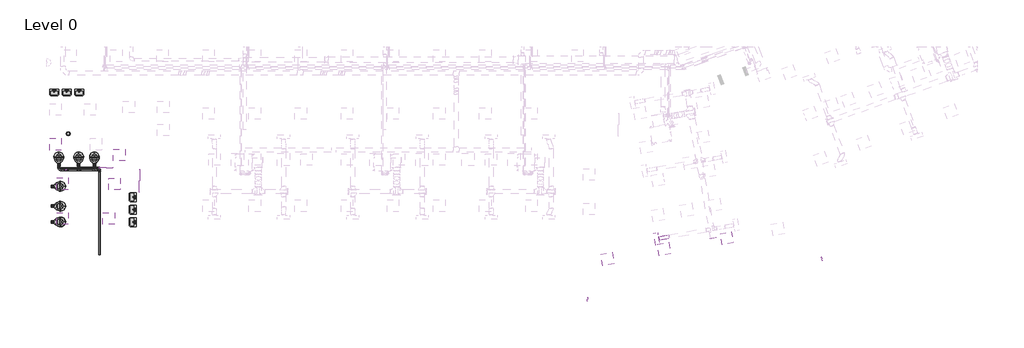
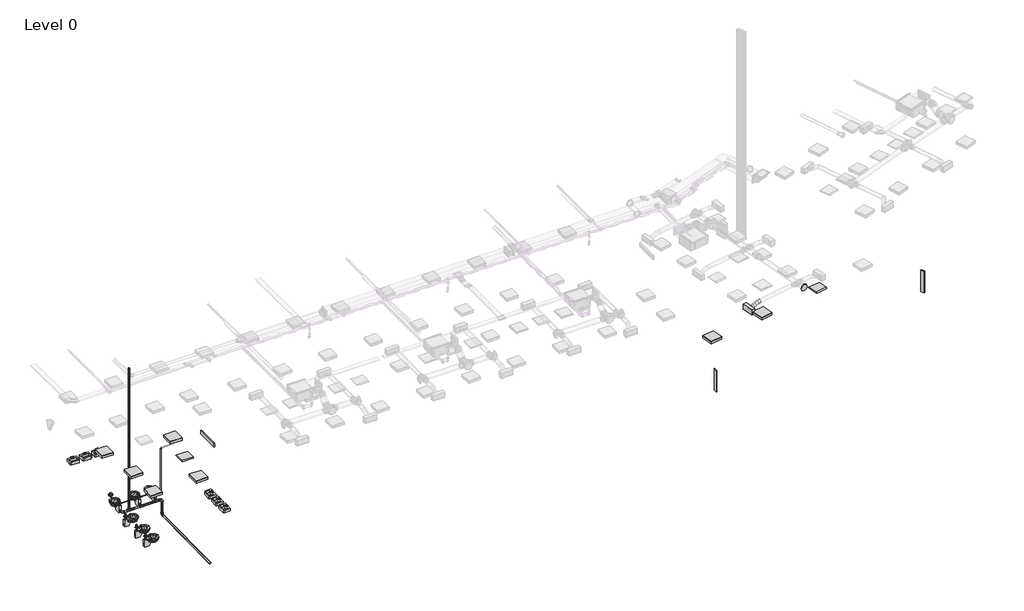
# One storey, part 1 of 34: 18 pipe segments, 16 pipe fittings, 13 flow terminals, 12 light fixtures, 1 air terminal, 1 duct fitting, 1 duct segment.
"""IFC4 building model written with IfcOpenShell, lengths in millimetres."""

from ifc_helpers import new_model, si_unit, point, frame, frame_2d, origin, place, context, project, spatial, circle_curve, ellipse_curve, trimmed, segment, composite_curve, outline, extrude, transform, mapped, element, save
from ifc_brep_helpers import plane_surface, cylinder_surface, advanced_brep
from components import supply_diffuser_with_plenum_linear_slot_hosted_2b730595, dw144_round_blank_end_standard_9aa061e7, flow_terminal_b70e5d94, flow_terminal_937b12d4, water_closet_flush_valve_wall_mounted_private_1_6_gpf_ada_c8064052, light_fixture_b730b5ca, light_fixture_64c2163c, troffer_light_2x2_parabolic_2_x2_2_lamp_120v_6a063ff3, bend_pvc_sch_40_dwv_standard_a4b99d37, bend_pvc_sch_40_dwv_standard_b43dd8eb, elbow_generic_standard_371413ad, elbow_generic_standard_c06ac706, plug_pvc_sch_40_dwv_standard_f522da5e, tee_generic_standard_e297dbca, tee_generic_standard_3d02b783, tee_sanitary_pvc_sch_40_dwv_standard_5c52869b, transition_generic_standard_7ca1ba8e, transition_generic_standard_d1cf43c0, transition_generic_standard_75be8432

model = new_model("IFC4")

# Units and contexts
model_context = context("Model", 3, world=origin())
ifc_project = project(units=[si_unit("LENGTHUNIT", "METRE", prefix="MILLI")], contexts=[model_context])

# Site, building, storey
site = spatial("IfcSite", under=ifc_project)
building = spatial("IfcBuilding", under=site)
storey = spatial("IfcBuildingStorey", under=building, Name="Level 0", Elevation=0.0)

# Air terminal
placement = place(None, origin())
supply_diffuser_with_plenum_linear_slot_hosted_shape = supply_diffuser_with_plenum_linear_slot_hosted_2b730595(model_context)
element("IfcAirTerminal", 1, ObjectType="Supply Diffuser with Plenum - Linear Slot - Hosted : 24\" x 8\"-200 In Inlet  4-Slot", at=placement, inside=storey, context=model_context, shape_type="MappedRepresentation", body=[
    mapped(supply_diffuser_with_plenum_linear_slot_hosted_shape, transform((32172.103094, -160.2535064, 2800.0), x_axis=(0.17364817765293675, -0.9848077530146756, 0.0), y_axis=(-0.9848077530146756, -0.17364817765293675, 0.0), z_axis=(0.0, 0.0, -1.0))),
])

# Duct fitting
dw144_round_blank_end_standard_shape = dw144_round_blank_end_standard_9aa061e7(model_context)
element("IfcDuctFitting", 2, ObjectType="DW144 Round Blank End : Standard", at=placement, inside=storey, context=model_context, shape_type="MappedRepresentation", body=[
    mapped(dw144_round_blank_end_standard_shape, transform((35110.8297064, -106.9527609, 3072.2088531), x_axis=(0.17364817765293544, -0.9848077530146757, 0.0), y_axis=(0.0, 0.0, -1.0), z_axis=(0.9848077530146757, 0.17364817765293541, 0.0))),
])

# Duct segment
element("IfcDuctSegment", 3, ObjectType="Flex - Round", at=placement, inside=storey, context=model_context, shape_type="AdvancedBrep", body=[
    advanced_brep(
    [(32832.8785941, -145.2836188, 3072.2088531), (32815.5137763, -46.8028435, 2972.2088531), (32798.1489586, 51.6779318, 3072.2088531), (32815.5137763, -46.8028435, 3172.2088531), (32819.3577841, -147.6677024, 3072.2088531), (32809.5599858, -47.8526574, 2972.2088531), (32784.6281486, 49.2938482, 3072.2088531), (32794.4259469, -50.5211968, 3172.2088531), (32314.5384964, -236.6809632, 2954.4), (32297.1736787, -138.2001879, 3054.4), (32279.8088609, -39.7194126, 2954.4), (32297.1736787, -138.2001879, 2854.4), (32702.0911799, -168.3449686, 3053.8012198), (32706.9780341, -65.9406232, 2956.1063066), (32667.3615444, 28.616582, 3053.8012198), (32662.4746903, -73.7877634, 3151.4961331), (32573.7085453, -190.982291, 3013.3044266), (32585.5591897, -87.3500414, 2917.8061591), (32538.9789097, 5.9792596, 3013.3044266), (32527.1282653, -97.6529899, 3108.802694), (32445.3259106, -213.6196133, 2972.8076333), (32450.2127647, -111.2152679, 2875.1127201), (32410.596275, -16.6580627, 2972.8076333), (32405.7094209, -119.0624081, 3070.5025465), (32328.0593064, -234.2968796, 2954.4), (32318.2615081, -134.4818346, 2854.4), (32293.3296708, -37.335329, 2954.4), (32303.1274691, -137.150374, 3054.4)],
    [
        (0, 1, circle_curve(frame((32815.5137763, -46.8028435, 3072.2088531), z_axis=(0.9848077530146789, 0.17364817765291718, 0.0), x_axis=(0.17364817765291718, -0.9848077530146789, 0.0)), 100.0)),
        (1, 2, circle_curve(frame((32815.5137763, -46.8028435, 3072.2088531), z_axis=(0.9848077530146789, 0.17364817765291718, 0.0), x_axis=(0.17364817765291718, -0.9848077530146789, 0.0)), 100.0)),
        (2, 3, circle_curve(frame((32815.5137763, -46.8028435, 3072.2088531), z_axis=(0.9848077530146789, 0.17364817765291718, 0.0), x_axis=(0.17364817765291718, -0.9848077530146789, 0.0)), 100.0)),
        (3, 0, circle_curve(frame((32815.5137763, -46.8028435, 3072.2088531), z_axis=(0.9848077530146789, 0.17364817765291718, 0.0), x_axis=(0.17364817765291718, -0.9848077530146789, 0.0)), 100.0)),
        (0, 4),
        (4, 5, ellipse_curve(frame((32801.9929664, -49.1869271, 3072.2088531), z_axis=(0.9819134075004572, 0.1731378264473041, 0.07661170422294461), x_axis=(0.07544780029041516, 0.013303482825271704, -0.9970610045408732)), 100.2947659, 100.0)),
        (5, 1),
        (5, 6, ellipse_curve(frame((32801.9929664, -49.1869271, 3072.2088531), z_axis=(0.9819134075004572, 0.1731378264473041, 0.07661170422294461), x_axis=(0.07544780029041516, 0.013303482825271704, -0.9970610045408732)), 100.2947659, 100.0)),
        (6, 2),
        (6, 7, ellipse_curve(frame((32801.9929664, -49.1869271, 3072.2088531), z_axis=(0.9819134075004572, 0.1731378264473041, 0.07661170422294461), x_axis=(0.07544780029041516, 0.013303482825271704, -0.9970610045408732)), 100.2947659, 100.0)),
        (7, 3),
        (7, 4, ellipse_curve(frame((32801.9929664, -49.1869271, 3072.2088531), z_axis=(0.9819134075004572, 0.1731378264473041, 0.07661170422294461), x_axis=(0.07544780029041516, 0.013303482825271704, -0.9970610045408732)), 100.2947659, 100.0)),
        (8, 9, circle_curve(frame((32297.1736787, -138.2001879, 2954.4), z_axis=(-0.9848077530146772, -0.17364817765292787, 0.0), x_axis=(0.17364817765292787, -0.9848077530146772, 0.0)), 100.0)),
        (9, 10, circle_curve(frame((32297.1736787, -138.2001879, 2954.4), z_axis=(-0.9848077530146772, -0.17364817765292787, 0.0), x_axis=(0.17364817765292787, -0.9848077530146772, 0.0)), 100.0)),
        (10, 11, circle_curve(frame((32297.1736787, -138.2001879, 2954.4), z_axis=(-0.9848077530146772, -0.17364817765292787, 0.0), x_axis=(0.17364817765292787, -0.9848077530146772, 0.0)), 100.0)),
        (11, 8, circle_curve(frame((32297.1736787, -138.2001879, 2954.4), z_axis=(-0.9848077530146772, -0.17364817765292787, 0.0), x_axis=(0.17364817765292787, -0.9848077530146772, 0.0)), 100.0)),
        (4, 12),
        (12, 13, ellipse_curve(frame((32684.7263622, -69.8641933, 3053.8012198), z_axis=(0.9594803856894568, 0.16918227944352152, 0.22533252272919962), x_axis=(0.22190921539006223, 0.03912858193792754, -0.9742819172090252)), 100.2737622, 100.0)),
        (13, 5),
        (13, 14, ellipse_curve(frame((32684.7263622, -69.8641933, 3053.8012198), z_axis=(0.9594803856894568, 0.16918227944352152, 0.22533252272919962), x_axis=(0.22190921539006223, 0.03912858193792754, -0.9742819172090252)), 100.2737622, 100.0)),
        (14, 6),
        (14, 15, ellipse_curve(frame((32684.7263622, -69.8641933, 3053.8012198), z_axis=(0.9594803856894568, 0.16918227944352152, 0.22533252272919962), x_axis=(0.22190921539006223, 0.03912858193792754, -0.9742819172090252)), 100.2737622, 100.0)),
        (15, 7),
        (15, 12, ellipse_curve(frame((32684.7263622, -69.8641933, 3053.8012198), z_axis=(0.9594803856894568, 0.16918227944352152, 0.22533252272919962), x_axis=(0.22190921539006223, 0.03912858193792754, -0.9742819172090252)), 100.2737622, 100.0)),
        (12, 16),
        (16, 17, circle_curve(frame((32556.3437275, -92.5015157, 3013.3044266), z_axis=(0.9404743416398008, 0.16583100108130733, 0.29666157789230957), x_axis=(0.17364817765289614, -0.9848077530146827, 0.0)), 100.0)),
        (17, 13),
        (17, 18, circle_curve(frame((32556.3437275, -92.5015157, 3013.3044266), z_axis=(0.9404743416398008, 0.16583100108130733, 0.29666157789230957), x_axis=(0.17364817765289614, -0.9848077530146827, 0.0)), 100.0)),
        (18, 14),
        (18, 19, circle_curve(frame((32556.3437275, -92.5015157, 3013.3044266), z_axis=(0.9404743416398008, 0.16583100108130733, 0.29666157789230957), x_axis=(0.17364817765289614, -0.9848077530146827, 0.0)), 100.0)),
        (19, 15),
        (19, 16, circle_curve(frame((32556.3437275, -92.5015157, 3013.3044266), z_axis=(0.9404743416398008, 0.16583100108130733, 0.29666157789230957), x_axis=(0.17364817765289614, -0.9848077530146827, 0.0)), 100.0)),
        (16, 20),
        (20, 21, ellipse_curve(frame((32427.9610928, -115.138838, 2972.8076333), z_axis=(0.9594803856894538, 0.16918227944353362, 0.22533252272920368), x_axis=(-0.22190921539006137, -0.03912858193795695, 0.9742819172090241)), 100.2737622, 100.0)),
        (21, 17),
        (21, 22, ellipse_curve(frame((32427.9610928, -115.138838, 2972.8076333), z_axis=(0.9594803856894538, 0.16918227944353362, 0.22533252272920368), x_axis=(-0.22190921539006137, -0.03912858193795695, 0.9742819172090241)), 100.2737622, 100.0)),
        (22, 18),
        (22, 23, ellipse_curve(frame((32427.9610928, -115.138838, 2972.8076333), z_axis=(0.9594803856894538, 0.16918227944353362, 0.22533252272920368), x_axis=(-0.22190921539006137, -0.03912858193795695, 0.9742819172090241)), 100.2737622, 100.0)),
        (23, 19),
        (23, 20, ellipse_curve(frame((32427.9610928, -115.138838, 2972.8076333), z_axis=(0.9594803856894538, 0.16918227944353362, 0.22533252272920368), x_axis=(-0.22190921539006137, -0.03912858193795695, 0.9742819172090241)), 100.2737622, 100.0)),
        (20, 24),
        (24, 25, ellipse_curve(frame((32310.6944886, -135.8161043, 2954.4), z_axis=(0.981913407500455, 0.17313782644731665, 0.07661170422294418), x_axis=(-0.07544780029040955, -0.013303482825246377, 0.9970610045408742)), 100.2947659, 100.0)),
        (25, 21),
        (25, 26, ellipse_curve(frame((32310.6944886, -135.8161043, 2954.4), z_axis=(0.981913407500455, 0.17313782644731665, 0.07661170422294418), x_axis=(-0.07544780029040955, -0.013303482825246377, 0.9970610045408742)), 100.2947659, 100.0)),
        (26, 22),
        (26, 27, ellipse_curve(frame((32310.6944886, -135.8161043, 2954.4), z_axis=(0.981913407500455, 0.17313782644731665, 0.07661170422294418), x_axis=(-0.07544780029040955, -0.013303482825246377, 0.9970610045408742)), 100.2947659, 100.0)),
        (27, 23),
        (27, 24, ellipse_curve(frame((32310.6944886, -135.8161043, 2954.4), z_axis=(0.981913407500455, 0.17313782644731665, 0.07661170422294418), x_axis=(-0.07544780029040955, -0.013303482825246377, 0.9970610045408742)), 100.2947659, 100.0)),
        (24, 8),
        (11, 25),
        (10, 26),
        (9, 27),
    ],
    [
        plane_surface(frame((32815.5137763, -46.8028435, 2972.2088531), z_axis=(0.9848077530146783, 0.1736481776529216, 0.0), x_axis=(0.1736481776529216, -0.9848077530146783, 0.0))),
        cylinder_surface(frame((32815.5137763, -46.8028435, 3072.2088531), z_axis=(0.9848077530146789, 0.17364817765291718, 0.0), x_axis=(0.17364817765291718, -0.9848077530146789, 0.0)), 100.0),
        plane_surface(frame((32297.1736787, -138.2001879, 2854.4), z_axis=(-0.9848077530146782, -0.17364817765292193, 0.0), x_axis=(0.17364817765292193, -0.9848077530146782, 0.0))),
        cylinder_surface(frame((32801.9929664, -49.1869271, 3072.2088531), z_axis=(0.9732473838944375, 0.17160977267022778, 0.1527730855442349), x_axis=(0.17364817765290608, -0.9848077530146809, 0.0)), 100.0),
        cylinder_surface(frame((32684.7263622, -69.8641933, 3053.8012198), z_axis=(0.9404743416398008, 0.16583100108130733, 0.29666157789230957), x_axis=(0.17364817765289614, -0.9848077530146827, 0.0)), 100.0),
        cylinder_surface(frame((32556.3437275, -92.5015157, 3013.3044266), z_axis=(0.9404743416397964, 0.165831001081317, 0.29666157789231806), x_axis=(0.17364817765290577, -0.984807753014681, 0.0)), 100.0),
        cylinder_surface(frame((32427.9610928, -115.138838, 2972.8076333), z_axis=(0.9732473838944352, 0.1716097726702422, 0.15277308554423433), x_axis=(0.17364817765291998, -0.9848077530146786, 0.0)), 100.0),
        cylinder_surface(frame((32310.6944886, -135.8161043, 2954.4), z_axis=(0.9848077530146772, 0.17364817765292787, 0.0), x_axis=(0.17364817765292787, -0.9848077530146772, 0.0)), 100.0),
    ],
    [
        (0, [[1, 2, 3, 4]]),
        (1, [[-1, 5, 6, 7]]),
        (1, [[-2, -7, 8, 9]]),
        (1, [[-3, -9, 10, 11]]),
        (1, [[-4, -11, 12, -5]]),
        (2, [[13, 14, 15, 16]]),
        (3, [[-6, 17, 18, 19]]),
        (3, [[-8, -19, 20, 21]]),
        (3, [[-10, -21, 22, 23]]),
        (3, [[-12, -23, 24, -17]]),
        (4, [[-18, 25, 26, 27]]),
        (4, [[-20, -27, 28, 29]]),
        (4, [[-22, -29, 30, 31]]),
        (4, [[-24, -31, 32, -25]]),
        (5, [[-26, 33, 34, 35]]),
        (5, [[-28, -35, 36, 37]]),
        (5, [[-30, -37, 38, 39]]),
        (5, [[-32, -39, 40, -33]]),
        (6, [[-34, 41, 42, 43]]),
        (6, [[-36, -43, 44, 45]]),
        (6, [[-38, -45, 46, 47]]),
        (6, [[-40, -47, 48, -41]]),
        (7, [[-42, 49, -16, 50]]),
        (7, [[-44, -50, -15, 51]]),
        (7, [[-46, -51, -14, 52]]),
        (7, [[-48, -52, -13, -49]]),
    ],
),
])

# Flow terminals
flow_terminal_shape = flow_terminal_b70e5d94(model_context)
element("IfcFlowTerminal", 4, ObjectType="Floor Drain - Round : 5\" Strainer - 2\" Drain", at=placement, inside=storey, context=model_context, shape_type="MappedRepresentation", body=[
    mapped(flow_terminal_shape, transform((1559.8000023, 5316.2000005, 0.0), x_axis=(1.0, 0.0, 0.0), y_axis=(0.0, 1.0, 0.0), z_axis=(0.0, 0.0, 1.0))),
])
flow_terminal_2_shape = flow_terminal_937b12d4(model_context)
element("IfcFlowTerminal", 5, ObjectType="Lavatory - Wall Mounted : 19\"x14\" - Public", at=placement, inside=storey, context=model_context, shape_type="MappedRepresentation", body=[
    mapped(flow_terminal_2_shape, transform((2132.9119024, 7638.2000005, 863.6), x_axis=(1.0, 0.0, 0.0), y_axis=(0.0, 0.0, 1.0), z_axis=(0.0, -1.0, 0.0))),
])
element("IfcFlowTerminal", 6, ObjectType="Lavatory - Wall Mounted : 19\"x14\" - Public", at=placement, inside=storey, context=model_context, shape_type="MappedRepresentation", body=[
    mapped(flow_terminal_2_shape, transform((1482.8708034, 7638.2000005, 863.6), x_axis=(1.0, 0.0, 0.0), y_axis=(0.0, 0.0, 1.0), z_axis=(0.0, -1.0, 0.0))),
])
element("IfcFlowTerminal", 7, ObjectType="Lavatory - Wall Mounted : 19\"x14\" - Public", at=placement, inside=storey, context=model_context, shape_type="MappedRepresentation", body=[
    mapped(flow_terminal_2_shape, transform((832.9119024, 7638.2000005, 863.6), x_axis=(1.0, 0.0, 0.0), y_axis=(0.0, 0.0, 1.0), z_axis=(0.0, -1.0, 0.0))),
])
element("IfcFlowTerminal", 8, ObjectType="Lavatory - Wall Mounted : 19\"x14\" - Public", at=placement, inside=storey, context=model_context, shape_type="MappedRepresentation", body=[
    mapped(flow_terminal_2_shape, transform((5095.2000024, 2011.8793485, 863.6), x_axis=(2.1361801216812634e-11, -1.0, 0.0), y_axis=(0.0, 0.0, 1.0), z_axis=(-1.0, -2.1361801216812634e-11, 0.0))),
])
element("IfcFlowTerminal", 9, ObjectType="Lavatory - Wall Mounted : 19\"x14\" - Public", at=placement, inside=storey, context=model_context, shape_type="MappedRepresentation", body=[
    mapped(flow_terminal_2_shape, transform((5095.2000025, 1361.8793485, 863.6), x_axis=(2.1361801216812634e-11, -1.0, 0.0), y_axis=(0.0, 0.0, 1.0), z_axis=(-1.0, -2.1361801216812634e-11, 0.0))),
])
element("IfcFlowTerminal", 10, ObjectType="Lavatory - Wall Mounted : 19\"x14\" - Public", at=placement, inside=storey, context=model_context, shape_type="MappedRepresentation", body=[
    mapped(flow_terminal_2_shape, transform((5095.2000025, 711.8382495, 863.6), x_axis=(2.1361801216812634e-11, -1.0, 0.0), y_axis=(0.0, 0.0, 1.0), z_axis=(-1.0, -2.1361801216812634e-11, 0.0))),
])
water_closet_flush_valve_wall_mounted_private_1_6_gpf_ada_shape = water_closet_flush_valve_wall_mounted_private_1_6_gpf_ada_c8064052(model_context)
element("IfcFlowTerminal", 11, ObjectType="Water Closet - Flush Valve - Wall Mounted : Private - 1.6 gpf", at=placement, inside=storey, context=model_context, shape_type="MappedRepresentation", body=[
    mapped(water_closet_flush_valve_wall_mounted_private_1_6_gpf_ada_shape, transform((2922.5000007, 3626.5000005, 431.8), x_axis=(-1.0, 2.544029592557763e-11, 0.0), y_axis=(0.0, 0.0, 1.0), z_axis=(2.544029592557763e-11, 1.0, 0.0))),
])
element("IfcFlowTerminal", 12, ObjectType="Water Closet - Flush Valve - Wall Mounted : Private - 1.6 gpf", at=placement, inside=storey, context=model_context, shape_type="MappedRepresentation", body=[
    mapped(water_closet_flush_valve_wall_mounted_private_1_6_gpf_ada_shape, transform((2102.5000007, 3626.5000005, 431.8), x_axis=(-1.0, 2.544029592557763e-11, 0.0), y_axis=(0.0, 0.0, 1.0), z_axis=(2.544029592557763e-11, 1.0, 0.0))),
])
element("IfcFlowTerminal", 13, ObjectType="Water Closet - Flush Valve - Wall Mounted : Private - 1.6 gpf", at=placement, inside=storey, context=model_context, shape_type="MappedRepresentation", body=[
    mapped(water_closet_flush_valve_wall_mounted_private_1_6_gpf_ada_shape, transform((683.0, 1543.0000006, 431.8), x_axis=(2.5445388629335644e-11, 1.0, 0.0), y_axis=(0.0, 0.0, 1.0), z_axis=(1.0, -2.5445388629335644e-11, 0.0))),
])
element("IfcFlowTerminal", 14, ObjectType="Water Closet - Flush Valve - Wall Mounted : Private - 1.6 gpf", at=placement, inside=storey, context=model_context, shape_type="MappedRepresentation", body=[
    mapped(water_closet_flush_valve_wall_mounted_private_1_6_gpf_ada_shape, transform((683.0, 723.0000006, 431.8), x_axis=(2.5445388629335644e-11, 1.0, 0.0), y_axis=(0.0, 0.0, 1.0), z_axis=(1.0, -2.5445388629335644e-11, 0.0))),
])
element("IfcFlowTerminal", 15, ObjectType="Water Closet - Flush Valve - Wall Mounted : Private - 1.6 gpf ADA", at=placement, inside=storey, context=model_context, shape_type="MappedRepresentation", body=[
    mapped(water_closet_flush_valve_wall_mounted_private_1_6_gpf_ada_shape, transform((1070.5000006, 3626.5000006, 431.8), x_axis=(-1.0, 2.544029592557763e-11, 0.0), y_axis=(0.0, 0.0, 1.0), z_axis=(2.544029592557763e-11, 1.0, 0.0))),
])
element("IfcFlowTerminal", 16, ObjectType="Water Closet - Flush Valve - Wall Mounted : Private - 1.6 gpf ADA", at=placement, inside=storey, context=model_context, shape_type="MappedRepresentation", body=[
    mapped(water_closet_flush_valve_wall_mounted_private_1_6_gpf_ada_shape, transform((683.0, 2575.0000006, 431.8), x_axis=(2.5445388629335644e-11, 1.0, 0.0), y_axis=(0.0, 0.0, 1.0), z_axis=(1.0, -2.5445388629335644e-11, 0.0))),
])

# Light fixtures
light_fixture_shape = light_fixture_b730b5ca(model_context)
element("IfcLightFixture", 17, ObjectType="ELEKTRA EM Recessed Lighting Fixture : 24\" x 24\" - 230", at=placement, inside=storey, context=model_context, shape_type="MappedRepresentation", body=[
    mapped(light_fixture_shape, transform((35578.2520389, -473.5414979, 2800.0), x_axis=(0.9848077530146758, 0.17364817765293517, 0.0), y_axis=(0.17364817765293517, -0.9848077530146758, 0.0), z_axis=(0.0, 0.0, -1.0))),
])
element("IfcLightFixture", 18, ObjectType="ELEKTRA EM Recessed Lighting Fixture : 24\" x 24\" - 230", at=placement, inside=storey, context=model_context, shape_type="MappedRepresentation", body=[
    mapped(light_fixture_shape, transform((3665.1000015, 2399.5000004, 2800.0), x_axis=(1.0, 0.0, 0.0), y_axis=(0.0, -1.0, 0.0), z_axis=(0.0, 0.0, -1.0))),
])
light_fixture_2_shape = light_fixture_64c2163c(model_context)
element("IfcLightFixture", 19, ObjectType="Plain Surface Lighting Fixture : 8\" x 48\" - 230", at=placement, inside=storey, context=model_context, shape_type="MappedRepresentation", body=[
    mapped(light_fixture_2_shape, transform((28564.8766926, -2669.6946701, 2438.8521354), x_axis=(0.0, 0.0, 1.0), y_axis=(-5.6002563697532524e-11, -1.0, 0.0), z_axis=(1.0, -5.6002563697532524e-11, 0.0))),
])
element("IfcLightFixture", 20, ObjectType="Plain Surface Lighting Fixture : 8\" x 48\" - 230", at=placement, inside=storey, context=model_context, shape_type="MappedRepresentation", body=[
    mapped(light_fixture_2_shape, transform((41007.2655529, -1794.4204217, 2438.8521354), x_axis=(0.0, 0.0, 1.0), y_axis=(-0.34202014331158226, 0.9396926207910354, 0.0), z_axis=(-0.9396926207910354, -0.34202014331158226, 0.0))),
])
element("IfcLightFixture", 21, ObjectType="Plain Surface Lighting Fixture : 8\" x 48\" - 230", at=placement, inside=storey, context=model_context, shape_type="MappedRepresentation", body=[
    mapped(light_fixture_2_shape, transform((5259.2000025, 3193.4813411, 2611.4786995), x_axis=(4.169267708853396e-11, 1.0, 0.0), y_axis=(0.0, 0.0, 1.0), z_axis=(1.0, -4.169267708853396e-11, 0.0))),
])
troffer_light_2x2_parabolic_2_x2_2_lamp_120v_shape = troffer_light_2x2_parabolic_2_x2_2_lamp_120v_6a063ff3(model_context)
element("IfcLightFixture", 22, ObjectType="Troffer Light - 2x2 Parabolic : 2'x2'(2 Lamp) - 120V", at=placement, inside=storey, context=model_context, shape_type="MappedRepresentation", body=[
    mapped(troffer_light_2x2_parabolic_2_x2_2_lamp_120v_shape, transform((29669.4055208, -1515.4305638, 2800.0), x_axis=(0.9848077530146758, 0.17364817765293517, 0.0), y_axis=(0.17364817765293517, -0.9848077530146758, 0.0), z_axis=(0.0, 0.0, -1.0))),
])
element("IfcLightFixture", 23, ObjectType="Troffer Light - 2x2 Parabolic : 2'x2'(2 Lamp) - 120V", at=placement, inside=storey, context=model_context, shape_type="MappedRepresentation", body=[
    mapped(troffer_light_2x2_parabolic_2_x2_2_lamp_120v_shape, transform((32623.8287798, -994.4860308, 2800.0), x_axis=(0.9848077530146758, 0.17364817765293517, 0.0), y_axis=(0.17364817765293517, -0.9848077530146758, 0.0), z_axis=(0.0, 0.0, -1.0))),
])
element("IfcLightFixture", 24, ObjectType="Troffer Light - 2x2 Parabolic : 2'x2'(2 Lamp) - 120V", at=placement, inside=storey, context=model_context, shape_type="MappedRepresentation", body=[
    mapped(troffer_light_2x2_parabolic_2_x2_2_lamp_120v_shape, transform((899.8500021, 4463.6000005, 2800.0), x_axis=(1.0, 0.0, 0.0), y_axis=(0.0, -1.0, 0.0), z_axis=(0.0, 0.0, -1.0))),
])
element("IfcLightFixture", 25, ObjectType="Troffer Light - 2x2 Parabolic : 2'x2'(2 Lamp) - 120V", at=placement, inside=storey, context=model_context, shape_type="MappedRepresentation", body=[
    mapped(troffer_light_2x2_parabolic_2_x2_2_lamp_120v_shape, transform((1265.1000015, 599.5000004, 2800.0), x_axis=(1.0, 0.0, 0.0), y_axis=(0.0, -1.0, 0.0), z_axis=(0.0, 0.0, -1.0))),
])
element("IfcLightFixture", 26, ObjectType="Troffer Light - 2x2 Parabolic : 2'x2'(2 Lamp) - 120V", at=placement, inside=storey, context=model_context, shape_type="MappedRepresentation", body=[
    mapped(troffer_light_2x2_parabolic_2_x2_2_lamp_120v_shape, transform((3665.1000015, 599.5000004, 2800.0), x_axis=(1.0, 0.0, 0.0), y_axis=(0.0, -1.0, 0.0), z_axis=(0.0, 0.0, -1.0))),
])
element("IfcLightFixture", 27, ObjectType="Troffer Light - 2x2 Parabolic : 2'x2'(2 Lamp) - 120V", at=placement, inside=storey, context=model_context, shape_type="MappedRepresentation", body=[
    mapped(troffer_light_2x2_parabolic_2_x2_2_lamp_120v_shape, transform((1265.1000015, 2399.5000004, 2800.0), x_axis=(1.0, 0.0, 0.0), y_axis=(0.0, -1.0, 0.0), z_axis=(0.0, 0.0, -1.0))),
])
element("IfcLightFixture", 28, ObjectType="Troffer Light - 2x2 Parabolic : 2'x2'(2 Lamp) - 120V", at=placement, inside=storey, context=model_context, shape_type="MappedRepresentation", body=[
    mapped(troffer_light_2x2_parabolic_2_x2_2_lamp_120v_shape, transform((4212.9500027, 3899.5000003, 2800.0), x_axis=(1.0, 0.0, 0.0), y_axis=(0.0, -1.0, 0.0), z_axis=(0.0, 0.0, -1.0))),
])

# Pipe fittings
bend_pvc_sch_40_dwv_standard_shape = bend_pvc_sch_40_dwv_standard_a4b99d37(model_context)
element("IfcPipeFitting", 29, ObjectType="Bend - PVC - Sch 40 - DWV : Standard", at=placement, inside=storey, context=model_context, shape_type="MappedRepresentation", body=[
    mapped(bend_pvc_sch_40_dwv_standard_shape, transform((1070.5000006, 3437.3672386, 234.7324174), x_axis=(0.0, -1.0, 0.0), y_axis=(1.0, 0.0, 0.0), z_axis=(0.0, 0.0, 1.0))),
])
element("IfcPipeFitting", 30, ObjectType="Bend - PVC - Sch 40 - DWV : Standard", at=placement, inside=storey, context=model_context, shape_type="MappedRepresentation", body=[
    mapped(bend_pvc_sch_40_dwv_standard_shape, transform((3190.8002007, 3437.3672386, 234.7324174), x_axis=(1.0, 0.0, 0.0), y_axis=(0.0, 0.0, -1.0), z_axis=(0.0, 1.0, 0.0))),
])
bend_pvc_sch_40_dwv_standard_2_shape = bend_pvc_sch_40_dwv_standard_b43dd8eb(model_context)
element("IfcPipeFitting", 31, ObjectType="Bend - PVC - Sch 40 - DWV : Standard", at=placement, inside=storey, context=model_context, shape_type="MappedRepresentation", body=[
    mapped(bend_pvc_sch_40_dwv_standard_2_shape, transform((3190.8002007, 3437.3672386, -609.6), x_axis=(0.0, 0.0, -1.0), y_axis=(0.0, -1.0, 0.0), z_axis=(-1.0, 0.0, 0.0))),
])
elbow_generic_standard_shape = elbow_generic_standard_371413ad(model_context)
element("IfcPipeFitting", 32, ObjectType="Elbow - Generic : Standard", at=placement, inside=storey, context=model_context, shape_type="MappedRepresentation", body=[
    mapped(elbow_generic_standard_shape, transform((3190.7875007, 3537.6000005, 690.0437815), x_axis=(1.0, 0.0, 0.0), y_axis=(0.0, 0.0, 1.0), z_axis=(0.0, -1.0, 0.0))),
])
element("IfcPipeFitting", 33, ObjectType="Elbow - Generic : Standard", at=placement, inside=storey, context=model_context, shape_type="MappedRepresentation", body=[
    mapped(elbow_generic_standard_shape, transform((3190.7875007, 3537.6000005, 3048.0), x_axis=(0.0, 0.0, 1.0), y_axis=(1.0, 0.0, 0.0), z_axis=(0.0, 1.0, 0.0))),
])
elbow_generic_standard_2_shape = elbow_generic_standard_c06ac706(model_context)
element("IfcPipeFitting", 34, ObjectType="Elbow - Generic : Standard", at=placement, inside=storey, context=model_context, shape_type="MappedRepresentation", body=[
    mapped(elbow_generic_standard_2_shape, transform((1070.5000006, 3537.6000005, 690.0437815), x_axis=(0.0, -1.0, 0.0), y_axis=(1.0, 0.0, 0.0), z_axis=(0.0, 0.0, 1.0))),
])
plug_pvc_sch_40_dwv_standard_shape = plug_pvc_sch_40_dwv_standard_f522da5e(model_context)
element("IfcPipeFitting", 35, ObjectType="Plug - PVC - Sch 40 - DWV : Standard", at=placement, inside=storey, context=model_context, shape_type="MappedRepresentation", body=[
    mapped(plug_pvc_sch_40_dwv_standard_shape, transform((1448.1068043, 3437.3672386, 8179.8), x_axis=(0.0, 0.0, 1.0), y_axis=(0.0, -1.0, 0.0), z_axis=(1.0, 0.0, 0.0))),
])
tee_generic_standard_shape = tee_generic_standard_e297dbca(model_context)
element("IfcPipeFitting", 36, ObjectType="Tee - Generic : Standard", at=placement, inside=storey, context=model_context, shape_type="MappedRepresentation", body=[
    mapped(tee_generic_standard_shape, transform((2102.5000007, 3537.6000005, 690.0437815), x_axis=(-1.0, 0.0, 0.0), y_axis=(0.0, -1.0, 0.0), z_axis=(0.0, 0.0, 1.0))),
])
tee_generic_standard_2_shape = tee_generic_standard_3d02b783(model_context)
element("IfcPipeFitting", 37, ObjectType="Tee - Generic : Standard", at=placement, inside=storey, context=model_context, shape_type="MappedRepresentation", body=[
    mapped(tee_generic_standard_2_shape, transform((2922.5000007, 3537.6000005, 690.0437815), x_axis=(1.0, 0.0, 0.0), y_axis=(0.0, -1.0, 0.0), z_axis=(0.0, 0.0, -1.0))),
])
tee_sanitary_pvc_sch_40_dwv_standard_shape = tee_sanitary_pvc_sch_40_dwv_standard_5c52869b(model_context)
element("IfcPipeFitting", 38, ObjectType="Tee Sanitary - PVC - Sch 40 - DWV : Standard", at=placement, inside=storey, context=model_context, shape_type="MappedRepresentation", body=[
    mapped(tee_sanitary_pvc_sch_40_dwv_standard_shape, transform((2102.5000007, 3437.3672386, 234.7324174), x_axis=(-1.0, 0.0, 0.0), y_axis=(0.0, -1.0, 0.0), z_axis=(0.0, 0.0, 1.0))),
])
element("IfcPipeFitting", 39, ObjectType="Tee Sanitary - PVC - Sch 40 - DWV : Standard", at=placement, inside=storey, context=model_context, shape_type="MappedRepresentation", body=[
    mapped(tee_sanitary_pvc_sch_40_dwv_standard_shape, transform((2922.5000007, 3437.3672386, 234.7324174), x_axis=(-1.0, 0.0, 0.0), y_axis=(0.0, -1.0, 0.0), z_axis=(0.0, 0.0, 1.0))),
])
element("IfcPipeFitting", 40, ObjectType="Tee Sanitary - PVC - Sch 40 - DWV : Standard", at=placement, inside=storey, context=model_context, shape_type="MappedRepresentation", body=[
    mapped(tee_sanitary_pvc_sch_40_dwv_standard_shape, transform((1448.1068043, 3437.3672386, 234.7324174), x_axis=(-1.0, 0.0, 0.0), y_axis=(0.0, 0.0, -1.0), z_axis=(0.0, -1.0, 0.0))),
])
transition_generic_standard_shape = transition_generic_standard_7ca1ba8e(model_context)
element("IfcPipeFitting", 41, ObjectType="Transition - Generic : Standard", at=placement, inside=storey, context=model_context, shape_type="MappedRepresentation", body=[
    mapped(transition_generic_standard_shape, transform((2072.3375007, 3537.6000005, 690.0437815), x_axis=(-1.0, 0.0, 0.0), y_axis=(0.0, -1.0, 0.0), z_axis=(0.0, 0.0, 1.0))),
])
element("IfcPipeFitting", 42, ObjectType="Transition - Generic : Standard", at=placement, inside=storey, context=model_context, shape_type="MappedRepresentation", body=[
    mapped(transition_generic_standard_shape, transform((2102.5000007, 3567.7625005, 690.0437815), x_axis=(0.0, 1.0, 0.0), y_axis=(-1.0, 0.0, 0.0), z_axis=(0.0, 0.0, 1.0))),
])
transition_generic_standard_2_shape = transition_generic_standard_d1cf43c0(model_context)
element("IfcPipeFitting", 43, ObjectType="Transition - Generic : Standard", at=placement, inside=storey, context=model_context, shape_type="MappedRepresentation", body=[
    mapped(transition_generic_standard_2_shape, transform((2889.1625007, 3537.6000005, 690.0437815), x_axis=(-1.0, 0.0, 0.0), y_axis=(0.0, -1.0, 0.0), z_axis=(0.0, 0.0, 1.0))),
])
transition_generic_standard_3_shape = transition_generic_standard_75be8432(model_context)
element("IfcPipeFitting", 44, ObjectType="Transition - Generic : Standard", at=placement, inside=storey, context=model_context, shape_type="MappedRepresentation", body=[
    mapped(transition_generic_standard_3_shape, transform((2922.5000007, 3570.9375005, 690.0437815), x_axis=(0.0, 1.0, 0.0), y_axis=(-1.0, 0.0, 0.0), z_axis=(0.0, 0.0, 1.0))),
])

# Pipe segments
element("IfcPipeSegment", 45, ObjectType="PVC - DWV", at=placement, inside=storey, context=model_context, shape_type="SweptSolid", body=[
    extrude(outline(composite_curve([segment(trimmed(circle_curve(frame_2d((234.7324174, 1070.5000006)), 44.45), [point((234.7324174, 1026.0500006))], [point((190.2824174, 1070.5000006))], False, "CARTESIAN"), True, "CONTINUOUS"), segment(trimmed(circle_curve(frame_2d((234.7324174, 1070.5000006)), 44.45), [point((190.2824174, 1070.5000006))], [point((234.7324174, 1114.9500006))], False, "CARTESIAN"), True, "CONTINUOUS"), segment(trimmed(circle_curve(frame_2d((234.7324174, 1070.5000006)), 44.45), [point((234.7324174, 1114.9500006))], [point((279.1824174, 1070.5000006))], False, "CARTESIAN"), True, "CONTINUOUS"), segment(trimmed(circle_curve(frame_2d((234.7324174, 1070.5000006)), 44.45), [point((279.1824174, 1070.5000006))], [point((234.7324174, 1026.0500006))], False, "CARTESIAN"), True, "CONTINUOUS")], self_intersect=False)), frame((0.0, 3553.2674386, 0.0), z_axis=(0.0, 1.0, 0.0), x_axis=(0.0, 0.0, 1.0)), (0.0, 0.0, 1.0), 73.2325619),
])
element("IfcPipeSegment", 46, ObjectType="PVC - DWV", at=placement, inside=storey, context=model_context, shape_type="SweptSolid", body=[
    extrude(outline(composite_curve([segment(trimmed(circle_curve(frame_2d((0.0, -44.45)), 44.45), [point((0.0, 0.0))], [point((44.45, -44.45))], False, "CARTESIAN"), True, "CONTINUOUS"), segment(trimmed(circle_curve(frame_2d((0.0, -44.45)), 44.45), [point((44.45, -44.45))], [point((0.0, -88.9))], False, "CARTESIAN"), True, "CONTINUOUS"), segment(trimmed(circle_curve(frame_2d((0.0, -44.45)), 44.45), [point((0.0, -88.9))], [point((-44.45, -44.45))], False, "CARTESIAN"), True, "CONTINUOUS"), segment(trimmed(circle_curve(frame_2d((0.0, -44.45)), 44.45), [point((-44.45, -44.45))], [point((0.0, 0.0))], False, "CARTESIAN"), True, "CONTINUOUS")], self_intersect=False)), frame((2058.0500007, 3553.2674386, 234.7324174), z_axis=(1.6687603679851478e-12, 1.0, 0.0), x_axis=(0.0, 0.0, -1.0)), (0.0, 0.0, 1.0), 73.2325619),
])
element("IfcPipeSegment", 47, ObjectType="PVC - DWV", at=placement, inside=storey, context=model_context, shape_type="SweptSolid", body=[
    extrude(outline(composite_curve([segment(trimmed(circle_curve(frame_2d((0.0, -44.45)), 44.45), [point((0.0, 0.0))], [point((44.45, -44.45))], False, "CARTESIAN"), True, "CONTINUOUS"), segment(trimmed(circle_curve(frame_2d((0.0, -44.45)), 44.45), [point((44.45, -44.45))], [point((0.0, -88.9))], False, "CARTESIAN"), True, "CONTINUOUS"), segment(trimmed(circle_curve(frame_2d((0.0, -44.45)), 44.45), [point((0.0, -88.9))], [point((-44.45, -44.45))], False, "CARTESIAN"), True, "CONTINUOUS"), segment(trimmed(circle_curve(frame_2d((0.0, -44.45)), 44.45), [point((-44.45, -44.45))], [point((0.0, 0.0))], False, "CARTESIAN"), True, "CONTINUOUS")], self_intersect=False)), frame((2878.0500007, 3553.2674386, 234.7324174), z_axis=(1.6687603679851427e-12, 1.0, 0.0), x_axis=(0.0, 0.0, -1.0)), (0.0, 0.0, 1.0), 73.2325619),
])
element("IfcPipeSegment", 48, ObjectType="PVC - DWV", at=placement, inside=storey, context=model_context, shape_type="SweptSolid", body=[
    extrude(outline(composite_curve([segment(trimmed(circle_curve(frame_2d((3437.3672386, 234.7324174)), 44.45), [point((3392.9172386, 234.7324174))], [point((3437.3672386, 279.1824174))], False, "CARTESIAN"), True, "CONTINUOUS"), segment(trimmed(circle_curve(frame_2d((3437.3672386, 234.7324174)), 44.45), [point((3437.3672386, 279.1824174))], [point((3481.8172386, 234.7324174))], False, "CARTESIAN"), True, "CONTINUOUS"), segment(trimmed(circle_curve(frame_2d((3437.3672386, 234.7324174)), 44.45), [point((3481.8172386, 234.7324174))], [point((3437.3672386, 190.2824174))], False, "CARTESIAN"), True, "CONTINUOUS"), segment(trimmed(circle_curve(frame_2d((3437.3672386, 234.7324174)), 44.45), [point((3437.3672386, 190.2824174))], [point((3392.9172386, 234.7324174))], False, "CARTESIAN"), True, "CONTINUOUS")], self_intersect=False)), frame((3038.4002007, 0.0, 0.0), z_axis=(1.0, 0.0, 0.0), x_axis=(0.0, 1.0, 0.0)), (0.0, 0.0, 1.0), 36.4998),
])
element("IfcPipeSegment", 49, ObjectType="PVC - DWV", at=placement, inside=storey, context=model_context, shape_type="SweptSolid", body=[
    extrude(outline(composite_curve([segment(trimmed(circle_curve(frame_2d((3437.3672386, 234.7324174)), 44.45), [point((3392.9172386, 234.7324174))], [point((3437.3672386, 279.1824174))], False, "CARTESIAN"), True, "CONTINUOUS"), segment(trimmed(circle_curve(frame_2d((3437.3672386, 234.7324174)), 44.45), [point((3437.3672386, 279.1824174))], [point((3481.8172386, 234.7324174))], False, "CARTESIAN"), True, "CONTINUOUS"), segment(trimmed(circle_curve(frame_2d((3437.3672386, 234.7324174)), 44.45), [point((3481.8172386, 234.7324174))], [point((3437.3672386, 190.2824174))], False, "CARTESIAN"), True, "CONTINUOUS"), segment(trimmed(circle_curve(frame_2d((3437.3672386, 234.7324174)), 44.45), [point((3437.3672386, 190.2824174))], [point((3392.9172386, 234.7324174))], False, "CARTESIAN"), True, "CONTINUOUS")], self_intersect=False)), frame((2218.4002007, 0.0, 0.0), z_axis=(1.0, 0.0, 0.0), x_axis=(0.0, 1.0, 0.0)), (0.0, 0.0, 1.0), 619.975),
])
element("IfcPipeSegment", 50, ObjectType="PVC - DWV", at=placement, inside=storey, context=model_context, shape_type="SweptSolid", body=[
    extrude(outline(composite_curve([segment(trimmed(circle_curve(frame_2d((0.0, -44.45)), 44.45), [point((-44.45, -44.45))], [point((0.0, 0.0))], False, "CARTESIAN"), True, "CONTINUOUS"), segment(trimmed(circle_curve(frame_2d((0.0, -44.45)), 44.45), [point((0.0, 0.0))], [point((44.45, -44.45))], False, "CARTESIAN"), True, "CONTINUOUS"), segment(trimmed(circle_curve(frame_2d((0.0, -44.45)), 44.45), [point((44.45, -44.45))], [point((0.0, -88.8999999))], False, "CARTESIAN"), True, "CONTINUOUS"), segment(trimmed(circle_curve(frame_2d((0.0, -44.45)), 44.45), [point((0.0, -88.8999999))], [point((-44.45, -44.45))], False, "CARTESIAN"), True, "CONTINUOUS")], self_intersect=False)), frame((3190.8002007, -981.7697657, -700.0850886), z_axis=(0.0, 0.9999457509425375, 0.01041610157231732), x_axis=(1.0, 0.0, 0.0)), (0.0, 0.0, 1.0), 4303.9395721),
])
element("IfcPipeSegment", 51, ObjectType="PVC - DWV", at=placement, inside=storey, context=model_context, shape_type="SweptSolid", body=[
    extrude(outline(composite_curve([segment(trimmed(circle_curve(frame_2d((3190.8002007, 3437.3672386)), 44.45), [point((3235.2502007, 3437.3672386))], [point((3190.8002007, 3392.9172386))], False, "CARTESIAN"), True, "CONTINUOUS"), segment(trimmed(circle_curve(frame_2d((3190.8002007, 3437.3672386)), 44.45), [point((3190.8002007, 3392.9172386))], [point((3146.3502007, 3437.3672386))], False, "CARTESIAN"), True, "CONTINUOUS"), segment(trimmed(circle_curve(frame_2d((3190.8002007, 3437.3672386)), 44.45), [point((3146.3502007, 3437.3672386))], [point((3190.8002007, 3481.8172386))], False, "CARTESIAN"), True, "CONTINUOUS"), segment(trimmed(circle_curve(frame_2d((3190.8002007, 3437.3672386)), 44.45), [point((3190.8002007, 3481.8172386))], [point((3235.2502007, 3437.3672386))], False, "CARTESIAN"), True, "CONTINUOUS")], self_intersect=False)), frame((0.0, 0.0, -493.6998), z_axis=(0.0, 0.0, 1.0), x_axis=(1.0, 0.0, 0.0)), (0.0, 0.0, 1.0), 612.5320174),
])
element("IfcPipeSegment", 52, ObjectType="PVC - DWV", at=placement, inside=storey, context=model_context, shape_type="SweptSolid", body=[
    extrude(outline(composite_curve([segment(trimmed(circle_curve(frame_2d((3437.3672386, 234.7324174)), 44.45), [point((3392.9172386, 234.7324174))], [point((3437.3672386, 279.1824174))], False, "CARTESIAN"), True, "CONTINUOUS"), segment(trimmed(circle_curve(frame_2d((3437.3672386, 234.7324174)), 44.45), [point((3437.3672386, 279.1824174))], [point((3481.8172386, 234.7324174))], False, "CARTESIAN"), True, "CONTINUOUS"), segment(trimmed(circle_curve(frame_2d((3437.3672386, 234.7324174)), 44.45), [point((3481.8172386, 234.7324174))], [point((3437.3672386, 190.2824174))], False, "CARTESIAN"), True, "CONTINUOUS"), segment(trimmed(circle_curve(frame_2d((3437.3672386, 234.7324174)), 44.45), [point((3437.3672386, 190.2824174))], [point((3392.9172386, 234.7324174))], False, "CARTESIAN"), True, "CONTINUOUS")], self_intersect=False)), frame((1564.0070043, 0.0, 0.0), z_axis=(1.0, 0.0, 0.0), x_axis=(0.0, 1.0, 0.0)), (0.0, 0.0, 1.0), 454.3681964),
])
element("IfcPipeSegment", 53, ObjectType="PVC - DWV", at=placement, inside=storey, context=model_context, shape_type="SweptSolid", body=[
    extrude(outline(composite_curve([segment(trimmed(circle_curve(frame_2d((3437.3672386, 234.7324174)), 44.45), [point((3392.9172386, 234.7324174))], [point((3437.3672386, 279.1824174))], False, "CARTESIAN"), True, "CONTINUOUS"), segment(trimmed(circle_curve(frame_2d((3437.3672386, 234.7324174)), 44.45), [point((3437.3672386, 279.1824174))], [point((3481.8172386, 234.7324174))], False, "CARTESIAN"), True, "CONTINUOUS"), segment(trimmed(circle_curve(frame_2d((3437.3672386, 234.7324174)), 44.45), [point((3481.8172386, 234.7324174))], [point((3437.3672386, 190.2824174))], False, "CARTESIAN"), True, "CONTINUOUS"), segment(trimmed(circle_curve(frame_2d((3437.3672386, 234.7324174)), 44.45), [point((3437.3672386, 190.2824174))], [point((3392.9172386, 234.7324174))], False, "CARTESIAN"), True, "CONTINUOUS")], self_intersect=False)), frame((1186.4002006, 0.0, 0.0), z_axis=(1.0, 0.0, 0.0), x_axis=(0.0, 1.0, 0.0)), (0.0, 0.0, 1.0), 177.5818037),
])
element("IfcPipeSegment", 54, ObjectType="Standard", at=placement, inside=storey, context=model_context, shape_type="SweptSolid", body=[
    extrude(outline(composite_curve([segment(trimmed(circle_curve(frame_2d((690.0437815, 2922.5000007)), 14.2875), [point((690.0437815, 2908.2125007))], [point((675.7562815, 2922.5000007))], False, "CARTESIAN"), True, "CONTINUOUS"), segment(trimmed(circle_curve(frame_2d((690.0437815, 2922.5000007)), 14.2875), [point((675.7562815, 2922.5000007))], [point((690.0437815, 2936.7875007))], False, "CARTESIAN"), True, "CONTINUOUS"), segment(trimmed(circle_curve(frame_2d((690.0437815, 2922.5000007)), 14.2875), [point((690.0437815, 2936.7875007))], [point((704.3312815, 2922.5000007))], False, "CARTESIAN"), True, "CONTINUOUS"), segment(trimmed(circle_curve(frame_2d((690.0437815, 2922.5000007)), 14.2875), [point((704.3312815, 2922.5000007))], [point((690.0437815, 2908.2125007))], False, "CARTESIAN"), True, "CONTINUOUS")], self_intersect=False)), frame((0.0, 3581.2562505, 0.0), z_axis=(0.0, 1.0, 0.0), x_axis=(0.0, 0.0, 1.0)), (0.0, 0.0, 1.0), 45.24375),
])
element("IfcPipeSegment", 55, ObjectType="Standard", at=placement, inside=storey, context=model_context, shape_type="SweptSolid", body=[
    extrude(outline(composite_curve([segment(trimmed(circle_curve(frame_2d((690.0437815, 1070.5000006)), 14.2875), [point((690.0437815, 1056.2125006))], [point((675.7562815, 1070.5000006))], False, "CARTESIAN"), True, "CONTINUOUS"), segment(trimmed(circle_curve(frame_2d((690.0437815, 1070.5000006)), 14.2875), [point((675.7562815, 1070.5000006))], [point((690.0437815, 1084.7875006))], False, "CARTESIAN"), True, "CONTINUOUS"), segment(trimmed(circle_curve(frame_2d((690.0437815, 1070.5000006)), 14.2875), [point((690.0437815, 1084.7875006))], [point((704.3312815, 1070.5000006))], False, "CARTESIAN"), True, "CONTINUOUS"), segment(trimmed(circle_curve(frame_2d((690.0437815, 1070.5000006)), 14.2875), [point((704.3312815, 1070.5000006))], [point((690.0437815, 1056.2125006))], False, "CARTESIAN"), True, "CONTINUOUS")], self_intersect=False)), frame((0.0, 3558.2375005, 0.0), z_axis=(0.0, 1.0, 0.0), x_axis=(0.0, 0.0, 1.0)), (0.0, 0.0, 1.0), 68.2625),
])
element("IfcPipeSegment", 56, ObjectType="Standard", at=placement, inside=storey, context=model_context, shape_type="SweptSolid", body=[
    extrude(outline(composite_curve([segment(trimmed(circle_curve(frame_2d((690.0437815, 2102.5000007)), 14.2875), [point((690.0437815, 2088.2125007))], [point((675.7562815, 2102.5000007))], False, "CARTESIAN"), True, "CONTINUOUS"), segment(trimmed(circle_curve(frame_2d((690.0437815, 2102.5000007)), 14.2875), [point((675.7562815, 2102.5000007))], [point((690.0437815, 2116.7875007))], False, "CARTESIAN"), True, "CONTINUOUS"), segment(trimmed(circle_curve(frame_2d((690.0437815, 2102.5000007)), 14.2875), [point((690.0437815, 2116.7875007))], [point((704.3312815, 2102.5000007))], False, "CARTESIAN"), True, "CONTINUOUS"), segment(trimmed(circle_curve(frame_2d((690.0437815, 2102.5000007)), 14.2875), [point((704.3312815, 2102.5000007))], [point((690.0437815, 2088.2125007))], False, "CARTESIAN"), True, "CONTINUOUS")], self_intersect=False)), frame((0.0, 3576.4937505, 0.0), z_axis=(0.0, 1.0, 0.0), x_axis=(0.0, 0.0, 1.0)), (0.0, 0.0, 1.0), 50.00625),
])
element("IfcPipeSegment", 57, ObjectType="Standard", at=placement, inside=storey, context=model_context, shape_type="SweptSolid", body=[
    extrude(outline(composite_curve([segment(trimmed(circle_curve(frame_2d((3537.6000005, 690.0437815)), 17.4625), [point((3520.1375005, 690.0437815))], [point((3537.6000005, 707.5062815))], False, "CARTESIAN"), True, "CONTINUOUS"), segment(trimmed(circle_curve(frame_2d((3537.6000005, 690.0437815)), 17.4625), [point((3537.6000005, 707.5062815))], [point((3555.0625005, 690.0437815))], False, "CARTESIAN"), True, "CONTINUOUS"), segment(trimmed(circle_curve(frame_2d((3537.6000005, 690.0437815)), 17.4625), [point((3555.0625005, 690.0437815))], [point((3537.6000005, 672.5812815))], False, "CARTESIAN"), True, "CONTINUOUS"), segment(trimmed(circle_curve(frame_2d((3537.6000005, 690.0437815)), 17.4625), [point((3537.6000005, 672.5812815))], [point((3520.1375005, 690.0437815))], False, "CARTESIAN"), True, "CONTINUOUS")], self_intersect=False)), frame((2132.6625007, 0.0, 0.0), z_axis=(1.0, 0.0, 0.0), x_axis=(0.0, 1.0, 0.0)), (0.0, 0.0, 1.0), 746.18125),
])
element("IfcPipeSegment", 58, ObjectType="Standard", at=placement, inside=storey, context=model_context, shape_type="SweptSolid", body=[
    extrude(outline(composite_curve([segment(trimmed(circle_curve(frame_2d((3537.6000005, 690.0437815)), 14.2875), [point((3523.3125005, 690.0437815))], [point((3537.6000005, 704.3312815))], False, "CARTESIAN"), True, "CONTINUOUS"), segment(trimmed(circle_curve(frame_2d((3537.6000005, 690.0437815)), 14.2875), [point((3537.6000005, 704.3312815))], [point((3551.8875005, 690.0437815))], False, "CARTESIAN"), True, "CONTINUOUS"), segment(trimmed(circle_curve(frame_2d((3537.6000005, 690.0437815)), 14.2875), [point((3551.8875005, 690.0437815))], [point((3537.6000005, 675.7562815))], False, "CARTESIAN"), True, "CONTINUOUS"), segment(trimmed(circle_curve(frame_2d((3537.6000005, 690.0437815)), 14.2875), [point((3537.6000005, 675.7562815))], [point((3523.3125005, 690.0437815))], False, "CARTESIAN"), True, "CONTINUOUS")], self_intersect=False)), frame((1091.1375006, 0.0, 0.0), z_axis=(1.0, 0.0, 0.0), x_axis=(0.0, 1.0, 0.0)), (0.0, 0.0, 1.0), 972.4687501),
])
element("IfcPipeSegment", 59, ObjectType="Standard", at=placement, inside=storey, context=model_context, shape_type="SweptSolid", body=[
    extrude(outline(composite_curve([segment(trimmed(circle_curve(frame_2d((3537.6000005, 690.0437815)), 20.6375), [point((3516.9625005, 690.0437815))], [point((3537.6000005, 710.6812815))], False, "CARTESIAN"), True, "CONTINUOUS"), segment(trimmed(circle_curve(frame_2d((3537.6000005, 690.0437815)), 20.6375), [point((3537.6000005, 710.6812815))], [point((3558.2375005, 690.0437815))], False, "CARTESIAN"), True, "CONTINUOUS"), segment(trimmed(circle_curve(frame_2d((3537.6000005, 690.0437815)), 20.6375), [point((3558.2375005, 690.0437815))], [point((3537.6000005, 669.4062815))], False, "CARTESIAN"), True, "CONTINUOUS"), segment(trimmed(circle_curve(frame_2d((3537.6000005, 690.0437815)), 20.6375), [point((3537.6000005, 669.4062815))], [point((3516.9625005, 690.0437815))], False, "CARTESIAN"), True, "CONTINUOUS")], self_intersect=False)), frame((2955.8375007, 0.0, 0.0), z_axis=(1.0, 0.0, 0.0), x_axis=(0.0, 1.0, 0.0)), (0.0, 0.0, 1.0), 207.9625),
])
element("IfcPipeSegment", 60, ObjectType="Standard", at=placement, inside=storey, context=model_context, shape_type="SweptSolid", body=[
    extrude(outline(composite_curve([segment(trimmed(circle_curve(frame_2d((3537.6000005, 3048.0)), 20.6375), [point((3516.9625005, 3048.0))], [point((3537.6000005, 3068.6375))], False, "CARTESIAN"), True, "CONTINUOUS"), segment(trimmed(circle_curve(frame_2d((3537.6000005, 3048.0)), 20.6375), [point((3537.6000005, 3068.6375))], [point((3558.2375005, 3048.0))], False, "CARTESIAN"), True, "CONTINUOUS"), segment(trimmed(circle_curve(frame_2d((3537.6000005, 3048.0)), 20.6375), [point((3558.2375005, 3048.0))], [point((3537.6000005, 3027.3625))], False, "CARTESIAN"), True, "CONTINUOUS"), segment(trimmed(circle_curve(frame_2d((3537.6000005, 3048.0)), 20.6375), [point((3537.6000005, 3027.3625))], [point((3516.9625005, 3048.0))], False, "CARTESIAN"), True, "CONTINUOUS")], self_intersect=False)), frame((3217.7750007, 0.0, 0.0), z_axis=(1.0, 0.0, 0.0), x_axis=(0.0, 1.0, 0.0)), (0.0, 0.0, 1.0), 658.8125),
])
element("IfcPipeSegment", 61, ObjectType="Standard", at=placement, inside=storey, context=model_context, shape_type="SweptSolid", body=[
    extrude(outline(composite_curve([segment(trimmed(circle_curve(frame_2d((3190.7875007, 3537.6000005)), 20.6375), [point((3170.1500007, 3537.6000005))], [point((3190.7875007, 3558.2375005))], False, "CARTESIAN"), True, "CONTINUOUS"), segment(trimmed(circle_curve(frame_2d((3190.7875007, 3537.6000005)), 20.6375), [point((3190.7875007, 3558.2375005))], [point((3211.4250007, 3537.6000005))], False, "CARTESIAN"), True, "CONTINUOUS"), segment(trimmed(circle_curve(frame_2d((3190.7875007, 3537.6000005)), 20.6375), [point((3211.4250007, 3537.6000005))], [point((3190.7875007, 3516.9625005))], False, "CARTESIAN"), True, "CONTINUOUS"), segment(trimmed(circle_curve(frame_2d((3190.7875007, 3537.6000005)), 20.6375), [point((3190.7875007, 3516.9625005))], [point((3170.1500007, 3537.6000005))], False, "CARTESIAN"), True, "CONTINUOUS")], self_intersect=False)), frame((0.0, 0.0, 717.0312815), z_axis=(0.0, 0.0, 1.0), x_axis=(1.0, 0.0, 0.0)), (0.0, 0.0, 1.0), 2303.9812185),
])
element("IfcPipeSegment", 62, ObjectType="Vent - PVC", at=placement, inside=storey, context=model_context, shape_type="SweptSolid", body=[
    extrude(outline(composite_curve([segment(trimmed(circle_curve(frame_2d((1448.1068043, 3437.3672386)), 44.45), [point((1403.6568043, 3437.3672386))], [point((1448.1068043, 3481.8172386))], False, "CARTESIAN"), True, "CONTINUOUS"), segment(trimmed(circle_curve(frame_2d((1448.1068043, 3437.3672386)), 44.45), [point((1448.1068043, 3481.8172386))], [point((1492.5568043, 3437.3672386))], False, "CARTESIAN"), True, "CONTINUOUS"), segment(trimmed(circle_curve(frame_2d((1448.1068043, 3437.3672386)), 44.45), [point((1492.5568043, 3437.3672386))], [point((1448.1068043, 3392.9172386))], False, "CARTESIAN"), True, "CONTINUOUS"), segment(trimmed(circle_curve(frame_2d((1448.1068043, 3437.3672386)), 44.45), [point((1448.1068043, 3392.9172386))], [point((1403.6568043, 3437.3672386))], False, "CARTESIAN"), True, "CONTINUOUS")], self_intersect=False)), frame((0.0, 0.0, 350.6326174), z_axis=(0.0, 0.0, 1.0), x_axis=(1.0, 0.0, 0.0)), (0.0, 0.0, 1.0), 7829.1673826),
])

save(model, "model.ifc")
